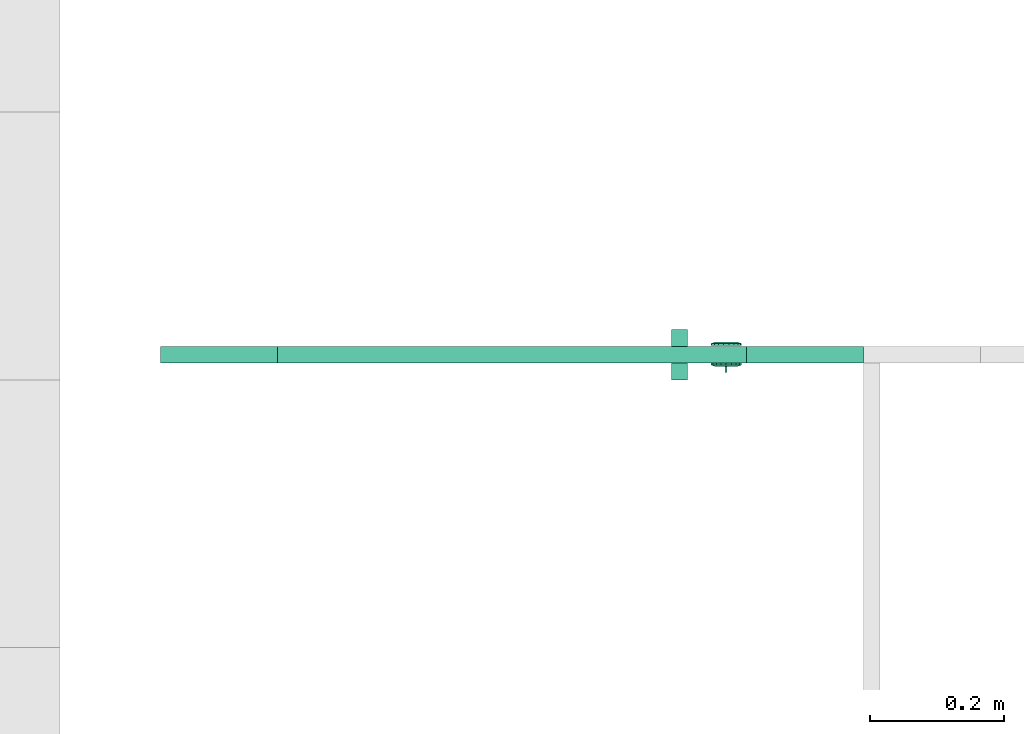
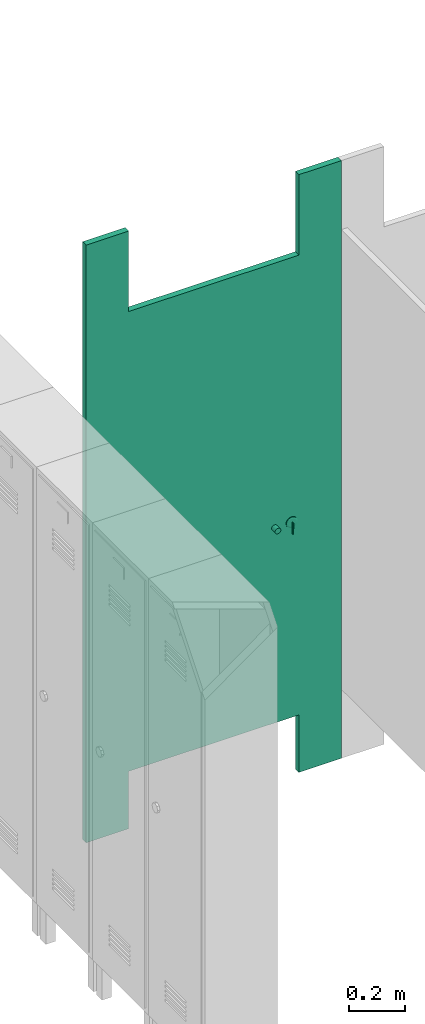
# One storey, part 5 of 9: 1 sanitary terminal.
"""IFC4 building model written with IfcOpenShell, lengths in millimetres."""

from ifc_helpers import new_model, entity, si_unit, converted_unit, derived_unit, direction, frame, origin_with_axes, place, context, subcontext, project, spatial, polygons, type_object, element, save


model = new_model("IFC4")

# Units and contexts
model_context = context("Model", 3, precision=0.01, world=origin_with_axes(), true_north=direction((0.0, 1.0)))
body_context = subcontext(model_context, "Body", "Model", "MODEL_VIEW")
ifc_project = project(units=[si_unit("LENGTHUNIT", "METRE", prefix="MILLI"), si_unit("AREAUNIT", "SQUARE_METRE"), si_unit("VOLUMEUNIT", "CUBIC_METRE"), converted_unit("PLANEANGLEUNIT", "DEGREE", entity("IfcPlaneAngleMeasure", 0.0174532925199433), si_unit("PLANEANGLEUNIT", "RADIAN"), dimensions=[0, 0, 0, 0, 0, 0, 0]), converted_unit("TIMEUNIT", "Year", entity("IfcTimeMeasure", 31557600.0), si_unit("TIMEUNIT", "SECOND"), dimensions=[0, 0, 1, 0, 0, 0, 0]), si_unit("MASSUNIT", "GRAM", prefix="KILO"), si_unit("THERMODYNAMICTEMPERATUREUNIT", "DEGREE_CELSIUS"), si_unit("LUMINOUSINTENSITYUNIT", "LUMEN"), si_unit("ENERGYUNIT", "JOULE", prefix="MEGA"), derived_unit("THERMALCONDUCTANCEUNIT", [(si_unit("POWERUNIT", "WATT"), 1), (si_unit("LENGTHUNIT", "METRE"), -1), (si_unit("THERMODYNAMICTEMPERATUREUNIT", "KELVIN"), -1)]), derived_unit("SPECIFICHEATCAPACITYUNIT", [(si_unit("ENERGYUNIT", "JOULE"), 1), (si_unit("MASSUNIT", "GRAM", prefix="KILO"), -1), (si_unit("THERMODYNAMICTEMPERATUREUNIT", "KELVIN"), -1)]), derived_unit("MASSDENSITYUNIT", [(si_unit("MASSUNIT", "GRAM", prefix="KILO"), 1), (si_unit("VOLUMEUNIT", "CUBIC_METRE"), -1)])], contexts=[model_context])

# Site, building, storey
site_placement = place(None, origin_with_axes())
site = spatial("IfcSite", under=ifc_project, at=site_placement, Name="Exteriér", CompositionType="ELEMENT")
building_placement = place(site_placement, origin_with_axes())
building = spatial("IfcBuilding", under=site, at=building_placement, Name="Univerzitní lezecké centrum", CompositionType="ELEMENT")
storey_placement = place(building_placement, frame((0.0, 0.0, 3200.0), z_axis=(0.0, 0.0, 1.0), x_axis=(1.0, 0.0, 0.0)))
storey = spatial("IfcBuildingStorey", under=building, at=storey_placement, Name="2.NP", CompositionType="ELEMENT", Elevation=3200.0)

# Sanitary terminal
sanitary_terminal_type = type_object("IfcSanitaryTerminalType", Name="Veřejná koupelnová kabinka 27", PredefinedType="NOTDEFINED")
sanitary_terminal_placement = place(storey_placement, frame((7900.096919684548, 500.3872060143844, 0.0), z_axis=(0.0, 0.0, 1.0), x_axis=(-1.0, 0.0, 0.0)))
element("IfcSanitaryTerminal", 1, at=sanitary_terminal_placement, inside=storey, type_object=sanitary_terminal_type, Name="OV23", PredefinedType="NOTDEFINED", context=body_context, shape_type="Tessellation", body=[
    polygons([(0.0, 0.0, 200.0), (0.0, 0.0, 2600.0), (-175.0000000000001, 0.0, 2600.0), (-175.0000000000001, 0.0, 200.0), (0.0, 25.0, 200.0), (0.0, 25.0, 2600.0), (-175.0000000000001, 25.0, 2600.0), (-175.0000000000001, 25.0, 200.0)], [[[1, 2, 3, 4]], [[5, 6, 2, 1]], [[2, 6, 7, 3]], [[4, 3, 7, 8]], [[1, 4, 8, 5]], [[8, 7, 6, 5]]], closed=True),
    polygons([(-875.0, 0.0, 200.0), (-875.0, 0.0, 2600.0), (-1050.0, 0.0, 2600.0), (-1050.0, 0.0, 200.0), (-875.0, 25.0, 200.0), (-875.0, 25.0, 2600.0), (-1050.0, 25.0, 2600.0), (-1050.0, 25.0, 200.0)], [[[1, 2, 3, 4]], [[5, 6, 2, 1]], [[2, 6, 7, 3]], [[4, 3, 7, 8]], [[1, 4, 8, 5]], [[8, 7, 6, 5]]], closed=True),
    polygons([(0.0, 0.0, 0.0), (0.0, 0.0, 200.0), (-175.0000000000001, 0.0, 200.0), (-175.0000000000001, 0.0, 0.0), (0.0, 25.0, 0.0), (0.0, 25.0, 200.0), (-175.0000000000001, 25.0, 200.0), (-175.0000000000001, 25.0, 0.0)], [[[1, 2, 3, 4]], [[5, 6, 2, 1]], [[2, 6, 7, 3]], [[4, 3, 7, 8]], [[1, 4, 8, 5]], [[8, 7, 6, 5]]], closed=True),
    polygons([(-875.0, 0.0, 0.0), (-875.0, 0.0, 200.0), (-1050.0, 0.0, 200.0), (-1050.0, 0.0, 0.0), (-875.0, 25.0, 0.0), (-875.0, 25.0, 200.0), (-1050.0, 25.0, 200.0), (-1050.0, 25.0, 0.0)], [[[1, 2, 3, 4]], [[5, 6, 2, 1]], [[2, 6, 7, 3]], [[4, 3, 7, 8]], [[1, 4, 8, 5]], [[8, 7, 6, 5]]], closed=True),
    polygons([(-175.0000000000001, 0.0, 250.0), (-175.0000000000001, 0.0, 2250.0), (-875.0, 0.0, 2250.0), (-875.0, 0.0, 250.0), (-175.0000000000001, 25.0, 250.0), (-175.0000000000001, 25.0, 2250.0), (-875.0, 25.0, 2250.0), (-875.0, 25.0, 250.0)], [[[1, 2, 3, 4]], [[5, 6, 2, 1]], [[2, 6, 7, 3]], [[4, 3, 7, 8]], [[1, 4, 8, 5]], [[8, 7, 6, 5]]], closed=True),
    polygons([(-843.5, 30.0, 1103.0), (-843.5, 32.0, 1103.0), (-846.5, 32.0, 1103.0), (-846.5, 30.0, 1103.0), (-843.5, 30.0, 1097.0), (-843.5, 32.0, 1097.0), (-843.5, 32.0, 1053.0), (-843.5, 34.0, 1051.0), (-843.5, 35.0, 1051.0), (-843.5, 38.00000000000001, 1072.0), (-843.5, 39.00000000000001, 1090.0), (-843.5, 39.00000000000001, 1102.0), (-846.5, 39.00000000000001, 1102.0), (-846.5, 39.00000000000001, 1090.0), (-846.5, 38.00000000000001, 1072.0), (-846.5, 35.0, 1051.0), (-846.5, 34.0, 1051.0), (-846.5, 32.0, 1053.0), (-846.5, 32.0, 1097.0), (-846.5, 30.0, 1097.0)], [[[1, 2, 3, 4]], [[1, 5, 6, 7, 8, 9, 10, 11, 12, 2]], [[2, 12, 13, 3]], [[4, 3, 13, 14, 15, 16, 17, 18, 19, 20]], [[5, 1, 4, 20]], [[6, 5, 20, 19]], [[7, 6, 19, 18]], [[8, 7, 18, 17]], [[9, 8, 17, 16]], [[10, 9, 16, 15]], [[11, 10, 15, 14]], [[12, 11, 14, 13]]], closed=True),
    polygons([(-839.1856575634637, 30.0, 1115.97477455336), (-845.0, 30.0, 1117.0), (-845.0, 28.0, 1123.0), (-837.1335367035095, 28.0, 1121.612930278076), (-834.0726106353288, 30.0, 1113.022755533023), (-830.2775681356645, 30.0, 1108.5), (-828.2582681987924, 30.0, 1102.952019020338), (-828.2582681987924, 30.0, 1097.047980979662), (-830.2775681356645, 30.0, 1091.5), (-834.0726106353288, 30.0, 1086.977244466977), (-839.1856575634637, 30.0, 1084.02522544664), (-845.0, 30.0, 1083.0), (-850.8143424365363, 30.0, 1084.02522544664), (-855.9273893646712, 30.0, 1086.977244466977), (-859.7224318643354, 30.0, 1091.5), (-861.7417318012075, 30.0, 1097.047980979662), (-861.7417318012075, 30.0, 1102.952019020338), (-859.7224318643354, 30.0, 1108.5), (-855.9273893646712, 30.0, 1113.022755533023), (-850.8143424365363, 30.0, 1115.97477455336), (-852.8664632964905, 28.0, 1121.612930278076), (-845.0, 25.0, 1123.0), (-837.1335367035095, 25.0, 1121.612930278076), (-830.2158849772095, 28.0, 1117.619022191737), (-825.0814157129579, 28.0, 1111.5), (-822.3494216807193, 28.0, 1103.993908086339), (-822.3494216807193, 28.0, 1096.006091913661), (-825.0814157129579, 28.0, 1088.5), (-830.2158849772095, 28.0, 1082.380977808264), (-837.1335367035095, 28.0, 1078.387069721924), (-845.0, 28.0, 1077.0), (-852.8664632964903, 28.0, 1078.387069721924), (-859.7841150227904, 28.0, 1082.380977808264), (-864.918584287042, 28.0, 1088.5), (-867.6505783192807, 28.0, 1096.006091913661), (-867.6505783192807, 28.0, 1103.993908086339), (-864.918584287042, 28.0, 1111.5), (-859.7841150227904, 28.0, 1117.619022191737), (-852.8664632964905, 25.0, 1121.612930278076), (-830.2158849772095, 25.0, 1117.619022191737), (-825.0814157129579, 25.0, 1111.5), (-822.3494216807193, 25.0, 1103.993908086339), (-822.3494216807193, 25.0, 1096.006091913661), (-825.0814157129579, 25.0, 1088.5), (-830.2158849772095, 25.0, 1082.380977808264), (-837.1335367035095, 25.0, 1078.387069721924), (-845.0, 25.0, 1077.0), (-852.8664632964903, 25.0, 1078.387069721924), (-859.7841150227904, 25.0, 1082.380977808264), (-864.918584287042, 25.0, 1088.5), (-867.6505783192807, 25.0, 1096.006091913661), (-867.6505783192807, 25.0, 1103.993908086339), (-864.918584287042, 25.0, 1111.5), (-859.7841150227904, 25.0, 1117.619022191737)], [[[1, 2, 3, 4]], [[2, 1, 5, 6, 7, 8, 9, 10, 11, 12, 13, 14, 15, 16, 17, 18, 19, 20]], [[2, 20, 21, 3]], [[4, 3, 22, 23]], [[5, 1, 4, 24]], [[6, 5, 24, 25]], [[7, 6, 25, 26]], [[8, 7, 26, 27]], [[9, 8, 27, 28]], [[10, 9, 28, 29]], [[11, 10, 29, 30]], [[12, 11, 30, 31]], [[13, 12, 31, 32]], [[14, 13, 32, 33]], [[15, 14, 33, 34]], [[16, 15, 34, 35]], [[17, 16, 35, 36]], [[18, 17, 36, 37]], [[19, 18, 37, 38]], [[20, 19, 38, 21]], [[3, 21, 39, 22]], [[24, 4, 23, 40]], [[25, 24, 40, 41]], [[26, 25, 41, 42]], [[27, 26, 42, 43]], [[28, 27, 43, 44]], [[29, 28, 44, 45]], [[30, 29, 45, 46]], [[31, 30, 46, 47]], [[32, 31, 47, 48]], [[33, 32, 48, 49]], [[34, 33, 49, 50]], [[35, 34, 50, 51]], [[36, 35, 51, 52]], [[37, 36, 52, 53]], [[38, 37, 53, 54]], [[21, 38, 54, 39]]], closed=False),
    polygons([(-822.0, -1.200000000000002, 1100.0), (-823.3870697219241, -1.200000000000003, 1107.866463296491), (-823.3870697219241, -4.200000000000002, 1107.866463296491), (-822.0, -4.200000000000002, 1100.0), (-823.3870697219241, -1.200000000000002, 1092.13353670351), (-827.3809778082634, -1.200000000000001, 1085.215884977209), (-833.5, -1.2, 1080.081415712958), (-841.0060919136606, -1.199999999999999, 1077.349421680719), (-848.9939080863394, -1.199999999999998, 1077.349421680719), (-856.5, -1.199999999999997, 1080.081415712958), (-862.6190221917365, -1.199999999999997, 1085.21588497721), (-866.6129302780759, -1.199999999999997, 1092.13353670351), (-868.0, -1.199999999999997, 1100.0), (-866.6129302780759, -1.199999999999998, 1107.866463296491), (-862.6190221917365, -1.199999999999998, 1114.784115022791), (-856.4999999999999, -1.2, 1119.918584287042), (-848.9939080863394, -1.200000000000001, 1122.650578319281), (-841.0060919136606, -1.200000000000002, 1122.650578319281), (-833.5, -1.200000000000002, 1119.918584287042), (-827.3809778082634, -1.200000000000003, 1114.784115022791), (-827.3809778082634, -4.200000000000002, 1114.784115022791), (-833.5, -4.200000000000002, 1119.918584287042), (-841.0060919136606, -4.200000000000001, 1122.650578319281), (-848.9939080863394, -4.2, 1122.650578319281), (-856.4999999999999, -4.2, 1119.918584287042), (-862.6190221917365, -4.199999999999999, 1114.784115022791), (-866.6129302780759, -4.199999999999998, 1107.866463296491), (-868.0, -4.199999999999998, 1100.0), (-866.6129302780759, -4.199999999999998, 1092.13353670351), (-862.6190221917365, -4.199999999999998, 1085.21588497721), (-856.5, -4.199999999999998, 1080.081415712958), (-848.9939080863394, -4.199999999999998, 1077.349421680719), (-841.0060919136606, -4.199999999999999, 1077.349421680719), (-833.5, -4.2, 1080.081415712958), (-827.3809778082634, -4.2, 1085.215884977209), (-823.3870697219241, -4.200000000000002, 1092.13353670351)], [[[1, 2, 3, 4]], [[1, 5, 6, 7, 8, 9, 10, 11, 12, 13, 14, 15, 16, 17, 18, 19, 20, 2]], [[2, 20, 21, 3]], [[4, 3, 21, 22, 23, 24, 25, 26, 27, 28, 29, 30, 31, 32, 33, 34, 35, 36]], [[5, 1, 4, 36]], [[6, 5, 36, 35]], [[7, 6, 35, 34]], [[8, 7, 34, 33]], [[9, 8, 33, 32]], [[10, 9, 32, 31]], [[11, 10, 31, 30]], [[12, 11, 30, 29]], [[13, 12, 29, 28]], [[14, 13, 28, 27]], [[15, 14, 27, 26]], [[16, 15, 26, 25]], [[17, 16, 25, 24]], [[18, 17, 24, 23]], [[19, 18, 23, 22]], [[20, 19, 22, 21]]], closed=True),
    polygons([(-853.4999999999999, -6.199999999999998, 1085.277568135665), (-847.9520190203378, -6.199999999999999, 1083.258268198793), (-842.0479809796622, -6.199999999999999, 1083.258268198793), (-836.5, -6.2, 1085.277568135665), (-831.9772444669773, -6.2, 1089.072610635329), (-829.0252254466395, -6.200000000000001, 1094.185657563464), (-828.0, -6.200000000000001, 1100.0), (-829.0252254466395, -6.200000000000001, 1105.814342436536), (-831.9772444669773, -6.200000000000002, 1110.927389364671), (-836.4999999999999, -6.200000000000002, 1114.722431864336), (-842.0479809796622, -6.200000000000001, 1116.741731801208), (-847.9520190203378, -6.200000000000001, 1116.741731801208), (-853.4999999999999, -6.2, 1114.722431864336), (-858.0227555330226, -6.2, 1110.927389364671), (-860.9747745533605, -6.199999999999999, 1105.814342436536), (-862.0, -6.199999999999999, 1100.0), (-860.9747745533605, -6.199999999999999, 1094.185657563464), (-858.0227555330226, -6.199999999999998, 1089.072610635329), (-841.0, -6.200000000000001, 1107.5), (-849.0, -6.2, 1107.5), (-849.0, -6.200000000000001, 1112.5), (-841.0, -6.200000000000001, 1112.5), (-848.9939080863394, -4.199999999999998, 1077.349421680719), (-856.4999999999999, -4.199999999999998, 1080.081415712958), (-841.0060919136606, -4.199999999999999, 1077.349421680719), (-833.5, -4.199999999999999, 1080.081415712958), (-827.3809778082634, -4.2, 1085.21588497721), (-823.3870697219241, -4.2, 1092.13353670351), (-822.0, -4.2, 1100.0), (-823.3870697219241, -4.200000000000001, 1107.866463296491), (-827.3809778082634, -4.200000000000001, 1114.784115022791), (-833.4999999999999, -4.200000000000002, 1119.918584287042), (-841.0060919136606, -4.200000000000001, 1122.650578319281), (-848.9939080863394, -4.2, 1122.650578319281), (-856.4999999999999, -4.2, 1119.918584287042), (-862.6190221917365, -4.2, 1114.784115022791), (-866.6129302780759, -4.199999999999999, 1107.866463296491), (-868.0, -4.199999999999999, 1100.0), (-866.6129302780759, -4.199999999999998, 1092.13353670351), (-862.6190221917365, -4.199999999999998, 1085.21588497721), (-849.0, -4.2, 1107.5), (-841.0, -4.2, 1107.5), (-849.0, -4.2, 1112.5), (-841.0, -4.200000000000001, 1112.5)], [[[1, 2, 3, 4, 5, 6, 7, 8, 9, 10, 11, 12, 13, 14, 15, 16, 17, 18], [19, 20, 21, 22]], [[23, 2, 1, 24]], [[25, 3, 2, 23]], [[26, 4, 3, 25]], [[27, 5, 4, 26]], [[28, 6, 5, 27]], [[29, 7, 6, 28]], [[30, 8, 7, 29]], [[31, 9, 8, 30]], [[32, 10, 9, 31]], [[33, 11, 10, 32]], [[34, 12, 11, 33]], [[35, 13, 12, 34]], [[36, 14, 13, 35]], [[37, 15, 14, 36]], [[38, 16, 15, 37]], [[39, 17, 16, 38]], [[40, 18, 17, 39]], [[24, 1, 18, 40]], [[41, 20, 19, 42]], [[43, 21, 20, 41]], [[44, 22, 21, 43]], [[42, 19, 22, 44]], [[35, 34, 33, 32, 31, 30, 29, 28, 27, 26, 25, 23, 24, 40, 39, 38, 37, 36], [42, 44, 43, 41]]], closed=True),
    polygons([(-841.0, -4.210000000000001, 1112.5), (-841.0, -4.210000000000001, 1107.5), (-849.0, -4.21, 1107.5), (-849.0, -4.21, 1112.5)], [[[1, 2, 3, 4]]], closed=False),
    polygons([(-786.5911099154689, 25.0, 1096.89417145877), (-785.3923048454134, 25.0, 1094.0), (-783.4852813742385, 25.0, 1091.514718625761), (-781.0, 25.0, 1089.607695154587), (-778.1058285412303, 25.0, 1088.408890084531), (-775.0, 25.0, 1088.0), (-771.8941714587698, 25.0, 1088.408890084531), (-769.0, 25.0, 1089.607695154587), (-766.5147186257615, 25.0, 1091.514718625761), (-764.6076951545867, 25.0, 1094.0), (-763.4088900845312, 25.0, 1096.89417145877), (-763.0, 25.0, 1100.0), (-763.4088900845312, 25.0, 1103.10582854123), (-764.6076951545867, 25.0, 1106.0), (-766.5147186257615, 25.0, 1108.485281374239), (-769.0, 25.0, 1110.392304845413), (-771.8941714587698, 25.0, 1111.591109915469), (-775.0, 25.0, 1112.0), (-778.1058285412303, 25.0, 1111.591109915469), (-781.0, 25.0, 1110.392304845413), (-783.4852813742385, 25.0, 1108.485281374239), (-785.3923048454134, 25.0, 1106.0), (-786.5911099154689, 25.0, 1103.10582854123), (-787.0, 25.0, 1100.0), (-786.5911099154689, 50.0, 1096.89417145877), (-785.3923048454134, 50.0, 1094.0), (-783.4852813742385, 50.0, 1091.514718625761), (-781.0, 50.0, 1089.607695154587), (-778.1058285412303, 50.0, 1088.408890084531), (-775.0, 50.0, 1088.0), (-771.8941714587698, 50.0, 1088.408890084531), (-769.0, 50.0, 1089.607695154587), (-766.5147186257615, 50.0, 1091.514718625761), (-764.6076951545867, 50.0, 1094.0), (-763.4088900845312, 50.0, 1096.89417145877), (-763.0, 50.0, 1100.0), (-763.4088900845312, 50.0, 1103.10582854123), (-764.6076951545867, 50.0, 1106.0), (-766.5147186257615, 50.0, 1108.485281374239), (-769.0, 50.0, 1110.392304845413), (-771.8941714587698, 50.0, 1111.591109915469), (-775.0, 50.0, 1112.0), (-778.1058285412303, 50.0, 1111.591109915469), (-781.0, 50.0, 1110.392304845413), (-783.4852813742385, 50.0, 1108.485281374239), (-785.3923048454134, 50.0, 1106.0), (-786.5911099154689, 50.0, 1103.10582854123), (-787.0, 50.0, 1100.0)], [[[1, 2, 3, 4, 5, 6, 7, 8, 9, 10, 11, 12, 13, 14, 15, 16, 17, 18, 19, 20, 21, 22, 23, 24]], [[2, 1, 25, 26]], [[3, 2, 26, 27]], [[4, 3, 27, 28]], [[5, 4, 28, 29]], [[6, 5, 29, 30]], [[7, 6, 30, 31]], [[8, 7, 31, 32]], [[9, 8, 32, 33]], [[10, 9, 33, 34]], [[11, 10, 34, 35]], [[12, 11, 35, 36]], [[13, 12, 36, 37]], [[14, 13, 37, 38]], [[15, 14, 38, 39]], [[16, 15, 39, 40]], [[17, 16, 40, 41]], [[18, 17, 41, 42]], [[19, 18, 42, 43]], [[20, 19, 43, 44]], [[21, 20, 44, 45]], [[22, 21, 45, 46]], [[23, 22, 46, 47]], [[24, 23, 47, 48]], [[1, 24, 48, 25]], [[25, 48, 47, 46, 45, 44, 43, 42, 41, 40, 39, 38, 37, 36, 35, 34, 33, 32, 31, 30, 29, 28, 27, 26]]], closed=True),
    polygons([(-786.5911099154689, 0.0, 1096.89417145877), (-787.0, 0.0, 1100.0), (-786.5911099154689, 0.0, 1103.10582854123), (-785.3923048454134, 0.0, 1106.0), (-783.4852813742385, 0.0, 1108.485281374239), (-781.0, 0.0, 1110.392304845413), (-778.1058285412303, 0.0, 1111.591109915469), (-775.0, 0.0, 1112.0), (-771.8941714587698, 0.0, 1111.591109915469), (-769.0, 0.0, 1110.392304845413), (-766.5147186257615, 0.0, 1108.485281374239), (-764.6076951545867, 0.0, 1106.0), (-763.4088900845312, 0.0, 1103.10582854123), (-763.0, 0.0, 1100.0), (-763.4088900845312, 0.0, 1096.89417145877), (-764.6076951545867, 0.0, 1094.0), (-766.5147186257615, 0.0, 1091.514718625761), (-769.0, 0.0, 1089.607695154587), (-771.8941714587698, 0.0, 1088.408890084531), (-775.0, 0.0, 1088.0), (-778.1058285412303, 0.0, 1088.408890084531), (-781.0, 0.0, 1089.607695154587), (-783.4852813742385, 0.0, 1091.514718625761), (-785.3923048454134, 0.0, 1094.0), (-786.5911099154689, -25.0, 1096.89417145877), (-787.0, -25.0, 1100.0), (-786.5911099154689, -25.0, 1103.10582854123), (-785.3923048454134, -25.0, 1106.0), (-783.4852813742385, -25.0, 1108.485281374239), (-781.0, -25.0, 1110.392304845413), (-778.1058285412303, -25.0, 1111.591109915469), (-775.0, -25.0, 1112.0), (-771.8941714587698, -25.0, 1111.591109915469), (-769.0, -25.0, 1110.392304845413), (-766.5147186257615, -25.0, 1108.485281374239), (-764.6076951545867, -25.0, 1106.0), (-763.4088900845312, -25.0, 1103.10582854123), (-763.0, -25.0, 1100.0), (-763.4088900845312, -25.0, 1096.89417145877), (-764.6076951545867, -25.0, 1094.0), (-766.5147186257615, -25.0, 1091.514718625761), (-769.0, -25.0, 1089.607695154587), (-771.8941714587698, -25.0, 1088.408890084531), (-775.0, -25.0, 1088.0), (-778.1058285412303, -25.0, 1088.408890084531), (-781.0, -25.0, 1089.607695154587), (-783.4852813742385, -25.0, 1091.514718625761), (-785.3923048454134, -25.0, 1094.0)], [[[1, 2, 3, 4, 5, 6, 7, 8, 9, 10, 11, 12, 13, 14, 15, 16, 17, 18, 19, 20, 21, 22, 23, 24]], [[1, 25, 26, 2]], [[2, 26, 27, 3]], [[3, 27, 28, 4]], [[4, 28, 29, 5]], [[5, 29, 30, 6]], [[6, 30, 31, 7]], [[7, 31, 32, 8]], [[8, 32, 33, 9]], [[9, 33, 34, 10]], [[10, 34, 35, 11]], [[11, 35, 36, 12]], [[12, 36, 37, 13]], [[13, 37, 38, 14]], [[14, 38, 39, 15]], [[15, 39, 40, 16]], [[16, 40, 41, 17]], [[17, 41, 42, 18]], [[18, 42, 43, 19]], [[19, 43, 44, 20]], [[20, 44, 45, 21]], [[21, 45, 46, 22]], [[22, 46, 47, 23]], [[23, 47, 48, 24]], [[24, 48, 25, 1]], [[25, 48, 47, 46, 45, 44, 43, 42, 41, 40, 39, 38, 37, 36, 35, 34, 33, 32, 31, 30, 29, 28, 27, 26]]], closed=True),
])

save(model, "model.ifc")
